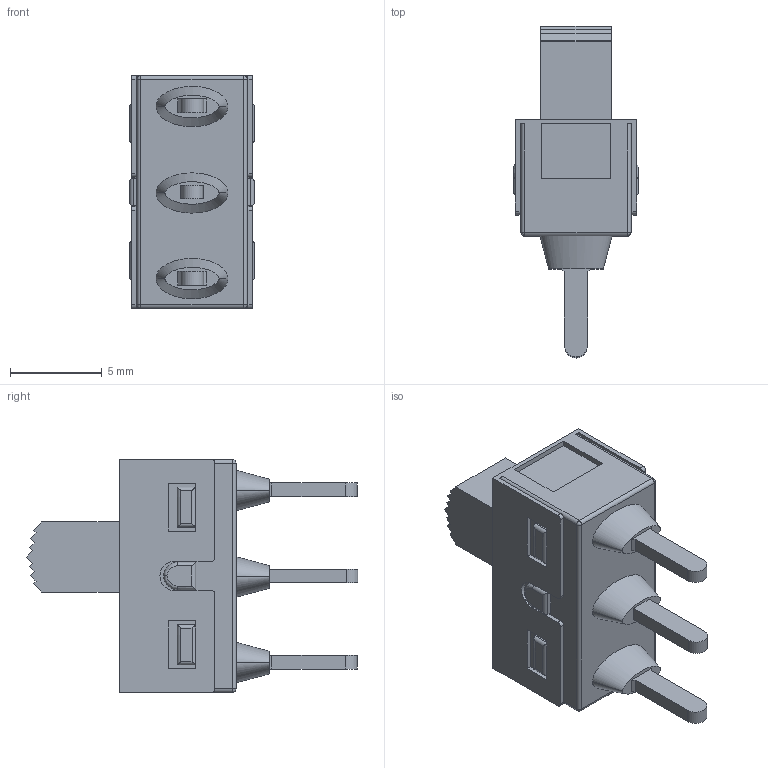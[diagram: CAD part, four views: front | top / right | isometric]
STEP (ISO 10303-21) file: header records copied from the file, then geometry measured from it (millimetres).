
FILE_DESCRIPTION (( 'STEP AP214' ), '1' );
FILE_NAME ('MFP106D_303822.STEP', '2017-05-10T08:06:35', ( '' ), ( '' ), 'SwSTEP 2.0', 'SolidWorks 2015', '' );
FILE_SCHEMA (( 'AUTOMOTIVE_DESIGN' ));
Length unit declared in the file: millimetre
Products named in the file (1): MFP106D_303822
Bounding box: 6.8 x 18.1 x 12.7 mm (x, y, z)
Volume: 601.8 mm3; surface area: 857.2 mm2
Topology: 1 solids, 1 shells, 192 faces, 506 edges, 320 vertices
Faces by surface type: plane 134, cylinder 45, bspline 13
Entity records: 8665 total; most frequent: CARTESIAN_POINT 1879, ORIENTED_EDGE 1004, DIRECTION 877, EDGE_CURVE 502, LINE 415, VECTOR 415, VERTEX_POINT 320, AXIS2_PLACEMENT_3D 231
